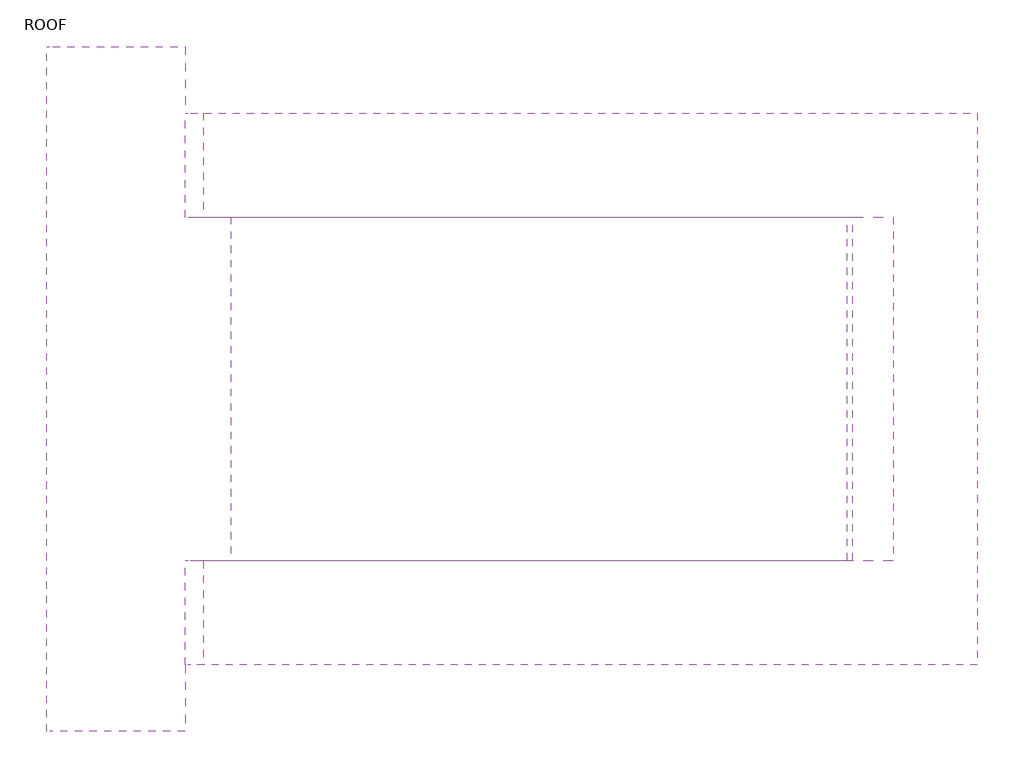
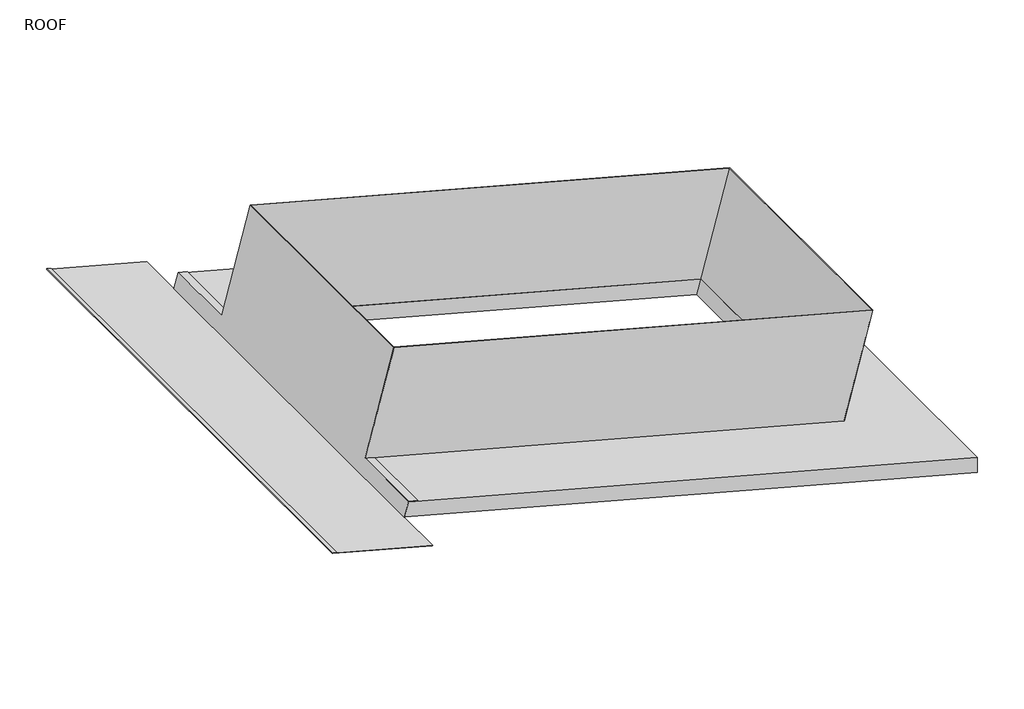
# One storey: 3 proxies.
"""IFC4 building model written with IfcOpenShell, lengths in millimetres."""

import ifcopenshell
import ifcopenshell.guid

model = None  # the IFC model being written
_history = None  # IfcOwnerHistory: only IFC2X3 demands one
_inside = {}  # id of a spatial element -> (the spatial element, [elements in it])
_under = {}  # id of a project, library or spatial element -> (it, [spatial elements below it])
_declared = {}  # id of a project -> (the project, [libraries it declares])
_typed = {}  # id of a type object -> (the type object, [elements of that type])
_made_of = {}  # id of a material, layer set ... -> (it, [elements and type objects made of it])


def new_model(schema):
    """Start an empty IFC model of exactly this schema.

    Asked for "IFC4X3", IfcOpenShell would pick the latest addendum, in which some entities
    have other attributes; the version numbers below select the first issue.
    IFC2X3 requires an IfcOwnerHistory on every rooted entity: one is made here for all.
    """
    global model, _history
    if schema == "IFC4X3":
        model = ifcopenshell.file(schema_version=(4, 3, 0, 0))
    else:
        model = ifcopenshell.file(schema=schema)
    _inside.clear()
    _under.clear()
    _declared.clear()
    _typed.clear()
    _made_of.clear()
    _history = None
    if model.schema == "IFC2X3":
        org = make("IfcOrganization", Name="unknown")
        user = make(
            "IfcPersonAndOrganization",
            ThePerson=make("IfcPerson", FamilyName="unknown"),
            TheOrganization=org,
        )
        app = make(
            "IfcApplication",
            ApplicationDeveloper=org,
            Version="unknown",
            ApplicationFullName="unknown",
            ApplicationIdentifier="unknown",
        )
        _history = make(
            "IfcOwnerHistory",
            OwningUser=user,
            OwningApplication=app,
            ChangeAction="ADDED",
            CreationDate=0,
        )
    return model


def make(cls, **values):
    """One entity of the class cls with the attributes given. An attribute that is None is left unset."""
    return model.create_entity(
        cls, **{name: value for name, value in values.items() if value is not None}
    )


def rooted(cls, **values):
    """An entity with a GlobalId (a new one), such as an element, a storey or a relation."""
    return make(cls, GlobalId=ifcopenshell.guid.new(), OwnerHistory=_history, **values)


def si_unit(unit_type, name, prefix=None):
    """IfcSIUnit, for example si_unit("LENGTHUNIT", "METRE", prefix="MILLI")."""
    return make("IfcSIUnit", UnitType=unit_type, Prefix=prefix, Name=name)


def assignment(units):
    """IfcUnitAssignment: the units of a project."""
    return None if units is None else make("IfcUnitAssignment", Units=units)


def point(xyz):
    """IfcCartesianPoint."""
    return None if xyz is None else make("IfcCartesianPoint", Coordinates=xyz)


def direction(xyz):
    """IfcDirection."""
    return None if xyz is None else make("IfcDirection", DirectionRatios=xyz)


def frame(location, z_axis=None, x_axis=None):
    """IfcAxis2Placement3D, a coordinate frame: its origin and axes. An axis left out is left unset."""
    return make(
        "IfcAxis2Placement3D",
        Location=point(location),
        Axis=direction(z_axis),
        RefDirection=direction(x_axis),
    )


def origin():
    """The frame at (0, 0, 0) with its axes left unset."""
    return frame((0.0, 0.0, 0.0))


def place(relative_to, where):
    """IfcLocalPlacement: puts the frame where relative to a parent placement (None: the world)."""
    return make(
        "IfcLocalPlacement", PlacementRelTo=relative_to, RelativePlacement=where
    )


def context(
    kind, dimensions, precision=None, world=None, true_north=None, identifier=None
):
    """IfcGeometricRepresentationContext, for example the 3D "Model" context."""
    return make(
        "IfcGeometricRepresentationContext",
        ContextIdentifier=identifier,
        ContextType=kind,
        CoordinateSpaceDimension=dimensions,
        Precision=precision,
        WorldCoordinateSystem=world,
        TrueNorth=true_north,
    )


def project(units=None, contexts=None):
    """IfcProject with its units and contexts."""
    return rooted(
        "IfcProject",
        Name="project",
        RepresentationContexts=contexts,
        UnitsInContext=assignment(units),
    )


def spatial(cls, under=None, at=None, **own):
    """A site, building, storey or space (cls), placed at a placement, below another one or the project."""
    s = rooted(cls, ObjectPlacement=at, **own)
    if under is not None:
        _under.setdefault(under.id(), (under, []))[1].append(s)
    return s


def polyline(points):
    """IfcPolyline through the points."""
    return make("IfcPolyline", Points=[point(p) for p in points])


def circle_curve(where, radius):
    """IfcCircle in the frame where."""
    return make("IfcCircle", Position=where, Radius=radius)


def outline(outer, holes=None, kind="AREA"):
    """IfcArbitraryClosedProfileDef: a profile drawn as a closed curve; with holes, ...WithVoids."""
    if holes is None:
        return make("IfcArbitraryClosedProfileDef", ProfileType=kind, OuterCurve=outer)
    return make(
        "IfcArbitraryProfileDefWithVoids",
        ProfileType=kind,
        OuterCurve=outer,
        InnerCurves=holes,
    )


def extrude(swept, where, along, depth):
    """IfcExtrudedAreaSolid: the profile swept, set in the frame where, extruded along a direction by depth."""
    return make(
        "IfcExtrudedAreaSolid",
        SweptArea=swept,
        Position=where,
        ExtrudedDirection=direction(along),
        Depth=depth,
    )


def faces_of(points, faces, orient=None, outer=None):
    """IfcFace entities. A face is a list of loops; a loop is a list of indices into points, from 0.

    orient and outer hold one flag for each loop. By default every Orientation is true, the
    first loop of a face is its IfcFaceOuterBound and the others are IfcFaceBound.
    """
    made = []
    for i, loops in enumerate(faces):
        bounds = []
        for j, loop in enumerate(loops):
            is_outer = j == 0 if outer is None else outer[i][j]
            bounds.append(
                make(
                    "IfcFaceOuterBound" if is_outer else "IfcFaceBound",
                    Bound=make("IfcPolyLoop", Polygon=[points[k] for k in loop]),
                    Orientation=True if orient is None else orient[i][j],
                )
            )
        made.append(make("IfcFace", Bounds=bounds))
    return made


def faceted_brep(points, faces, orient=None, outer=None, voids=None):
    """IfcFacetedBrep: a solid bounded by flat faces; with voids (closed shells), ...WithVoids."""
    shared = [point(p) for p in points]
    hull = make("IfcClosedShell", CfsFaces=faces_of(shared, faces, orient, outer))
    if voids is None:
        return make("IfcFacetedBrep", Outer=hull)
    return make(
        "IfcFacetedBrepWithVoids",
        Outer=hull,
        Voids=[
            make(cls, CfsFaces=faces_of(shared, fs, o, b)) for cls, fs, o, b in voids
        ],
    )


def shape(context_of_items, identifier, shape_type, items):
    """IfcShapeRepresentation: the items that make up one representation, for example the "Body"."""
    return make(
        "IfcShapeRepresentation",
        ContextOfItems=context_of_items,
        RepresentationIdentifier=identifier,
        RepresentationType=shape_type,
        Items=items,
    )


def source(mapping_origin, context_of_items, identifier, shape_type, items):
    """IfcRepresentationMap: a shape defined once, which mapped items show again and again."""
    return make(
        "IfcRepresentationMap",
        MappingOrigin=mapping_origin,
        MappedRepresentation=shape(context_of_items, identifier, shape_type, items),
    )


def transform(
    local_origin,
    x_axis=None,
    y_axis=None,
    z_axis=None,
    scale=None,
    scale2=None,
    scale3=None,
    uniform=True,
):
    """IfcCartesianTransformationOperator3D, or its non-uniform kind. x_axis, y_axis, z_axis: its Axis1, 2, 3."""
    if uniform:
        return make(
            "IfcCartesianTransformationOperator3D",
            Axis1=direction(x_axis),
            Axis2=direction(y_axis),
            LocalOrigin=point(local_origin),
            Scale=scale,
            Axis3=direction(z_axis),
        )
    return make(
        "IfcCartesianTransformationOperator3DnonUniform",
        Axis1=direction(x_axis),
        Axis2=direction(y_axis),
        LocalOrigin=point(local_origin),
        Scale=scale,
        Axis3=direction(z_axis),
        Scale2=scale2,
        Scale3=scale3,
    )


def mapped(mapping_source, mapping_target):
    """IfcMappedItem: shows the shape of a source again, moved by a transform."""
    return make(
        "IfcMappedItem", MappingSource=mapping_source, MappingTarget=mapping_target
    )


def made_of(thing, what):
    """Note that an element or type object is made of a material, layer set ...; save() writes the relation."""
    if what is not None:
        _made_of.setdefault(what.id(), (what, []))[1].append(thing)
    return thing


def element(
    cls,
    number,
    at=None,
    inside=None,
    cuts=None,
    type_object=None,
    material=None,
    context=None,
    identifier="Body",
    shape_type=None,
    held_by="IfcProductDefinitionShape",
    body=None,
    shapes=None,
    **own,
):
    """One element of the class cls, such as IfcWall. Its Tag is "e" and its number.

    at: its placement. inside: the storey or other place that contains it. cuts: it is an
    opening in that element (IfcRelVoidsElement). A single representation is given by context,
    identifier, shape_type and body (its items); several are given by shapes. held_by: the class
    of the entity that holds the representations. save() writes the other relations.
    """
    e = rooted(cls, Tag="e%d" % number, ObjectPlacement=at, **own)
    if body is not None:
        shapes = [shape(context, identifier, shape_type, body)]
    if shapes is not None:
        e.Representation = make(held_by, Representations=shapes)
    if inside is not None:
        _inside.setdefault(inside.id(), (inside, []))[1].append(e)
    if cuts is not None:
        rooted(
            "IfcRelVoidsElement", RelatingBuildingElement=cuts, RelatedOpeningElement=e
        )
    if type_object is not None:
        _typed.setdefault(type_object.id(), (type_object, []))[1].append(e)
    return made_of(e, material)


def aggregate(whole, parts):
    """IfcRelAggregates: a whole, such as a stair, and the parts it consists of."""
    return rooted("IfcRelAggregates", RelatingObject=whole, RelatedObjects=parts)


def save(model, path):
    """Write the relations noted so far, then the file.

    IfcRelAggregates (storeys below a building ...), IfcRelContainedInSpatialStructure (elements
    in a storey), IfcRelDefinesByType, IfcRelAssociatesMaterial and IfcRelDeclares: one each for
    every whole, place, type object, material and project.
    """
    for whole, parts in _under.values():
        aggregate(whole, parts)
    for where, things in _inside.values():
        rooted(
            "IfcRelContainedInSpatialStructure",
            RelatedElements=things,
            RelatingStructure=where,
        )
    for kind, things in _typed.values():
        rooted("IfcRelDefinesByType", RelatedObjects=things, RelatingType=kind)
    for what, things in _made_of.values():
        rooted("IfcRelAssociatesMaterial", RelatedObjects=things, RelatingMaterial=what)
    for by, libraries in _declared.values():
        rooted("IfcRelDeclares", RelatingContext=by, RelatedDefinitions=libraries)
    model.write(path)


def plane_surface(at):
    """IfcPlane: the flat surface through the origin of the frame at, square to its z axis."""
    return make("IfcPlane", Position=at)


def cylinder_surface(at, radius):
    """IfcCylindricalSurface: all points at the distance radius from the z axis of the frame at."""
    return make("IfcCylindricalSurface", Position=at, Radius=radius)


def advanced_brep(points, edges, surfaces, faces):
    """IfcAdvancedBrep: a solid bounded by faces that lie on surfaces and meet in shared edges.

    An edge is (start, end): straight between two places in points (the first is 0);
    or (start, end, curve); or (start, end, curve, False) where it runs against its curve.
    A face is (place in surfaces, loops), or (place, loops, False) where it looks against
    its surface's normal. A loop lists edges by number (the first is 1), with a minus sign
    where the edge is run from its end to its start. The first loop is the outer one.
    """
    corners = [point(p) for p in points]
    vertices = [make("IfcVertexPoint", VertexGeometry=c) for c in corners]
    made = []
    for start, end, *more in edges:
        made.append(
            make(
                "IfcEdgeCurve",
                EdgeStart=vertices[start],
                EdgeEnd=vertices[end],
                EdgeGeometry=more[0] if more else make("IfcPolyline", Points=[corners[start], corners[end]]),
                SameSense=more[1] if len(more) > 1 else True,
            )
        )
    hull = []
    for where, loops, *sense in faces:
        bounds = []
        for j, loop in enumerate(loops):
            ring = [make("IfcOrientedEdge", EdgeElement=made[abs(k) - 1], Orientation=k > 0) for k in loop]
            bounds.append(
                make(
                    "IfcFaceOuterBound" if j == 0 else "IfcFaceBound",
                    Bound=make("IfcEdgeLoop", EdgeList=ring),
                    Orientation=True,
                )
            )
        hull.append(make("IfcAdvancedFace", Bounds=bounds, FaceSurface=surfaces[where], SameSense=sense[0] if sense else True))
    return make("IfcAdvancedBrep", Outer=make("IfcClosedShell", CfsFaces=hull))


def chimney_flashing6_chimney_flashing_385691b3(model_context):
    return source(origin(), model_context, "Body", "SweptSolid", [
        extrude(outline(polyline([(0.0, -1.0), (0.0, 0.0), (1200.9999999, 0.0), (1200.9999999, -602.0), (0.0, -602.0), (0.0, -601.0), (1199.9999999, -601.0), (1199.9999999, -1.0), (0.0, -1.0)])), frame((-6064.0995454, -34611.8838318, 9984.2509927), z_axis=(0.2585656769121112, 0.0, 0.9659936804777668), x_axis=(0.9659936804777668, 0.0, -0.2585656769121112)), (0.0, 0.0, 1.0), 269.6718079),
    ])


def chimney_penetration_flashing10_chimney_flashing_99962ab8(model_context):
    return source(origin(), model_context, "Body", "AdvancedBrep", [
        advanced_brep(
        [(-6074.4421729, -35512.8838318, 9945.6112442), (-6074.1836072, -35512.8838318, 9946.5772379), (-6306.0386129, -35512.8838318, 10008.5722555), (-6305.7803007, -35512.8838318, 10009.5383169), (-6315.4409153, -35512.8838318, 10012.1214399), (-6315.9575399, -35512.8838318, 10010.1893169), (-6074.4421729, -34312.8838318, 9945.6112442), (-6315.9575399, -34312.8838318, 10010.1893169), (-6315.4409153, -34312.8838318, 10012.1214399), (-6305.7803007, -34312.8838318, 10009.5383169), (-6306.0386129, -34312.8838318, 10008.5722555), (-6074.1836072, -34312.8838318, 9946.5772379), (-6074.1836072, -34429.2203831, 9946.5772379), (-6064.0995454, -34429.2203831, 9984.2509927), (-6064.0995454, -34611.8838318, 9984.2509927), (-6063.8409798, -34611.8838318, 9985.2169864), (-5994.3716719, -34611.8838318, 10244.752255), (-5994.3716719, -35213.8838318, 10244.752255), (-6063.8409798, -35213.8838318, 9985.2169864), (-6064.0995454, -35213.8838318, 9984.2509927), (-6064.0995454, -35396.5472806, 9984.2509927), (-6074.1836072, -35396.5472806, 9946.5772379), (-6075.1496687, -35396.5472806, 9946.8355502), (-6075.1496687, -34429.2203831, 9946.8355502), (-5995.3376656, -35213.8838318, 10245.0108207), (-6064.8069056, -35213.8838318, 9985.4758055), (-5995.3376656, -34611.8838318, 10245.0108207), (-6064.8069056, -34611.8838318, 9985.4758055), (-6042.491813, -35213.8838318, 9979.4964945), (-6042.7503787, -35213.8838318, 9978.5305007), (-6042.491813, -35396.5472806, 9979.4964945), (-6042.7503787, -35396.5472806, 9978.5305007), (-6064.8069056, -34429.2203831, 9985.4758055), (-6064.8069056, -35396.5472806, 9985.4758055), (-6042.7503787, -34611.8838318, 9978.5305007), (-6042.491813, -34611.8838318, 9979.4964945), (-6042.491813, -34429.2203831, 9979.4964945), (-6042.7503787, -34429.2203831, 9978.5305007)],
        [
            (0, 1),
            (1, 2),
            (2, 3),
            (3, 4),
            (4, 5, circle_curve(frame((-6315.6992276, -35512.8838318, 10011.1553784), z_axis=(0.0, -1.0, 0.0), x_axis=(-0.49954561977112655, 0.0, -0.8662875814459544)), 1.0)),
            (5, 0),
            (6, 7),
            (7, 8, circle_curve(frame((-6315.6992276, -34312.8838318, 10011.1553784), z_axis=(0.0, 1.0, 0.0), x_axis=(-0.49954561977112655, 0.0, -0.8662875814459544)), 1.0)),
            (8, 9),
            (9, 10),
            (10, 11),
            (11, 6),
            (0, 6),
            (11, 12),
            (12, 13),
            (13, 14),
            (14, 15),
            (15, 16),
            (16, 17),
            (17, 18),
            (18, 19),
            (19, 20),
            (20, 21),
            (21, 1),
            (21, 22),
            (22, 23),
            (23, 12),
            (10, 2),
            (9, 3),
            (8, 4),
            (7, 5),
            (17, 24),
            (24, 25),
            (25, 18),
            (26, 16),
            (15, 27),
            (27, 26),
            (26, 24),
            (28, 29),
            (29, 19),
            (18, 28),
            (30, 31),
            (31, 29),
            (28, 30),
            (31, 20),
            (27, 32),
            (32, 23),
            (22, 33),
            (33, 25),
            (30, 33),
            (14, 34),
            (34, 35),
            (35, 15),
            (36, 37),
            (37, 13),
            (32, 36),
            (34, 37),
            (36, 35),
        ],
        [
            plane_surface(frame((-7781.0894126, -35512.8838318, 10336.9190019), z_axis=(0.0, -1.0, 0.0), x_axis=(-0.8662875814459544, 0.0, 0.49954561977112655))),
            plane_surface(frame((-7781.0894126, -34312.8838318, 10336.9190019), z_axis=(0.0, 1.0, 0.0), x_axis=(-0.8662875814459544, 0.0, 0.49954561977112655))),
            plane_surface(frame((-6074.4421729, -35512.8838318, 9945.6112442), z_axis=(0.9659936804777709, 0.0, -0.25856567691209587), x_axis=(0.0, 1.0, 0.0))),
            plane_surface(frame((-6074.1836072, -35512.8838318, 9946.5772379), z_axis=(0.2583122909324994, 0.0, 0.9660614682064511), x_axis=(0.0, 1.0, 0.0))),
            plane_surface(frame((-6306.0386129, -35512.8838318, 10008.5722555), z_axis=(0.9660614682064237, 0.0, -0.2583122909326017), x_axis=(0.0, 1.0, 0.0))),
            plane_surface(frame((-6305.7803007, -35512.8838318, 10009.5383169), z_axis=(0.2583122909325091, 0.0, 0.9660614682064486), x_axis=(0.0, 1.0, 0.0))),
            cylinder_surface(frame((-6315.6992276, -35512.8838318, 10011.1553784), z_axis=(0.0, -1.0, 0.0), x_axis=(-0.49954561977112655, 0.0, -0.8662875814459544)), 1.0),
            plane_surface(frame((-6315.9575399, -35512.8838318, 10010.1893169), z_axis=(-0.2583122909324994, 0.0, -0.9660614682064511), x_axis=(0.0, 1.0, 0.0))),
            plane_surface(frame((-7781.0894126, -35213.8838318, 10336.9190019), z_axis=(0.0, -1.0, 0.0), x_axis=(-0.8662875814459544, 0.0, 0.49954561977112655))),
            plane_surface(frame((-7781.0894126, -34611.8838318, 10336.9190019), z_axis=(0.0, 1.0, 0.0), x_axis=(-0.8662875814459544, 0.0, 0.49954561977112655))),
            plane_surface(frame((-5994.3716719, -35213.8838318, 10244.752255), z_axis=(0.2585656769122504, 0.0, 0.9659936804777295), x_axis=(0.0, 1.0, 0.0))),
            plane_surface(frame((-7781.0894126, -35213.8838318, 10336.9190019), z_axis=(0.0, 1.0, 0.0), x_axis=(-0.8662875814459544, 0.0, 0.49954561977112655))),
            plane_surface(frame((-6042.7503787, -35396.5472806, 9978.5305007), z_axis=(0.9659936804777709, 0.0, -0.25856567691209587), x_axis=(0.0, 1.0, 0.0))),
            plane_surface(frame((-6064.0995454, -35396.5472806, 9984.2509927), z_axis=(-0.2588190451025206, 0.0, -0.9659258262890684), x_axis=(0.0, 1.0, 0.0))),
            plane_surface(frame((-5995.3376656, -35213.8838318, 10245.0108207), z_axis=(-0.9659936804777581, 0.0, 0.25856567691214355), x_axis=(0.0, 1.0, 0.0))),
            plane_surface(frame((-7781.0894126, -35396.5472806, 10336.9190019), z_axis=(0.0, -1.0, 0.0), x_axis=(-0.8662875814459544, 0.0, 0.49954561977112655))),
            plane_surface(frame((-6042.491813, -35396.5472806, 9979.4964945), z_axis=(0.2588190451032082, 0.0, 0.9659258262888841), x_axis=(0.0, 1.0, 0.0))),
            plane_surface(frame((-7781.0894126, -34611.8838318, 10336.9190019), z_axis=(0.0, -1.0, 0.0), x_axis=(-0.8662875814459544, 0.0, 0.49954561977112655))),
            plane_surface(frame((-7781.0894126, -34429.2203831, 10336.9190019), z_axis=(0.0, 1.0, 0.0), x_axis=(-0.8662875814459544, 0.0, 0.49954561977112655))),
            plane_surface(frame((-6042.7503787, -34611.8838318, 9978.5305007), z_axis=(0.9659936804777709, 0.0, -0.25856567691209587), x_axis=(0.0, 1.0, 0.0))),
            plane_surface(frame((-6064.0995454, -34611.8838318, 9984.2509927), z_axis=(-0.2588190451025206, 0.0, -0.9659258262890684), x_axis=(0.0, 1.0, 0.0))),
            plane_surface(frame((-6042.491813, -34611.8838318, 9979.4964945), z_axis=(0.2588190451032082, 0.0, 0.9659258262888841), x_axis=(0.0, 1.0, 0.0))),
        ],
        [
            (0, [[1, 2, 3, 4, 5, 6]]),
            (1, [[7, 8, 9, 10, 11, 12]]),
            (2, [[-1, 13, -12, 14, 15, 16, 17, 18, 19, 20, 21, 22, 23, 24]]),
            (3, [[-2, -24, 25, 26, 27, -14, -11, 28]]),
            (4, [[-3, -28, -10, 29]]),
            (5, [[-4, -29, -9, 30]]),
            (6, [[-5, -30, -8, 31]]),
            (7, [[-6, -31, -7, -13]]),
            (8, [[32, 33, 34, -20]]),
            (9, [[35, -18, 36, 37]]),
            (10, [[-32, -19, -35, 38]]),
            (11, [[39, 40, -21, 41]]),
            (12, [[42, 43, -39, 44]]),
            (13, [[45, -22, -40, -43]]),
            (14, [[-38, -37, 46, 47, -26, 48, 49, -33]]),
            (15, [[50, -48, -25, -23, -45, -42]]),
            (16, [[-50, -44, -41, -34, -49]]),
            (17, [[51, 52, 53, -17]]),
            (18, [[54, 55, -15, -27, -47, 56]]),
            (19, [[-52, 57, -54, 58]]),
            (20, [[-51, -16, -55, -57]]),
            (21, [[-56, -46, -36, -53, -58]]),
        ],
    ),
    ])


def chimney_penetration_flashing9_chimney_flashing_e1f1fb1d(model_context):
    return source(origin(), model_context, "Body", "Brep", [
        faceted_brep([(-4702.105013, -34047.7298034, 9576.3272044), (-4702.105013, -34047.7298034, 9615.1260589), (-6079.6980206, -34047.7298034, 9984.2509927), (-6089.3882391, -34047.7298034, 9948.0486245), (-4702.105013, -33080.4029059, 9576.3272044), (-6089.3882391, -33080.4029059, 9948.0486245), (-6079.6980206, -33080.4029059, 9984.2509927), (-4702.105013, -33080.4029059, 9615.1260589), (-6079.6980206, -33264.0663546, 9984.2509927), (-4920.5870594, -33264.0663546, 9673.6681468), (-4920.5870594, -33864.0663546, 9673.6681468), (-6079.6980206, -33864.0663546, 9984.2509927), (-6089.3882391, -33864.0663546, 9948.0486245), (-6089.3882391, -33264.0663546, 9948.0486245), (-4930.286773, -33864.0663546, 9637.4683227), (-4930.286773, -33264.0663546, 9637.4683227)], [[[0, 1, 2, 3]], [[4, 5, 6, 7]], [[1, 0, 4, 7]], [[2, 1, 7, 6, 8, 9, 10, 11]], [[3, 2, 11, 12]], [[6, 5, 13, 8]], [[0, 3, 12, 14, 15, 13, 5, 4]], [[15, 9, 8, 13]], [[9, 15, 14, 10]], [[10, 14, 12, 11]]]),
    ])


model = new_model("IFC4")

# Units and contexts
model_context = context("Model", 3, world=origin())
ifc_project = project(units=[si_unit("LENGTHUNIT", "METRE", prefix="MILLI")], contexts=[model_context])

# Site, building, storey
site = spatial("IfcSite", under=ifc_project)
building = spatial("IfcBuilding", under=site)
storey = spatial("IfcBuildingStorey", under=building, Name="ROOF", Elevation=6705.0)

# Proxies
placement = place(None, origin())
chimney_flashing6_chimney_flashing_shape = chimney_flashing6_chimney_flashing_385691b3(model_context)
element("IfcBuildingElementProxy", 1, Name="Chimney Flashing6 : Chimney Flashing", ObjectType="Chimney Flashing6 : Chimney Flashing", at=placement, inside=storey, context=model_context, shape_type="MappedRepresentation", body=[
    mapped(chimney_flashing6_chimney_flashing_shape, transform((-5148.6521222, 128.922833, -1283.3625242), x_axis=(1.0, 0.0, 0.0), y_axis=(0.0, 1.0, 0.0), z_axis=(0.0, 0.0, 1.0))),
])
chimney_penetration_flashing10_chimney_flashing_shape = chimney_penetration_flashing10_chimney_flashing_99962ab8(model_context)
element("IfcBuildingElementProxy", 2, Name="Chimney Penetration Flashing10 : Chimney Flashing", ObjectType="Chimney Penetration Flashing10 : Chimney Flashing", at=placement, inside=storey, context=model_context, shape_type="MappedRepresentation", body=[
    mapped(chimney_penetration_flashing10_chimney_flashing_shape, transform((-5148.6424042, 128.922833, -1283.326218), x_axis=(1.0, 0.0, 0.0), y_axis=(0.0, 1.0, 0.0), z_axis=(0.0, 0.0, 1.0))),
])
chimney_penetration_flashing9_chimney_flashing_shape = chimney_penetration_flashing9_chimney_flashing_e1f1fb1d(model_context)
element("IfcBuildingElementProxy", 3, Name="Chimney Penetration Flashing9 : Chimney Flashing", ObjectType="Chimney Penetration Flashing9 : Chimney Flashing", at=placement, inside=storey, context=model_context, shape_type="MappedRepresentation", body=[
    mapped(chimney_penetration_flashing9_chimney_flashing_shape, transform((-5133.0439956, -1219.8946442, -1283.3264666), x_axis=(1.0, 0.0, 0.0), y_axis=(0.0, 1.0, 0.0), z_axis=(0.0, 0.0, 1.0))),
])

save(model, "model.ifc")
